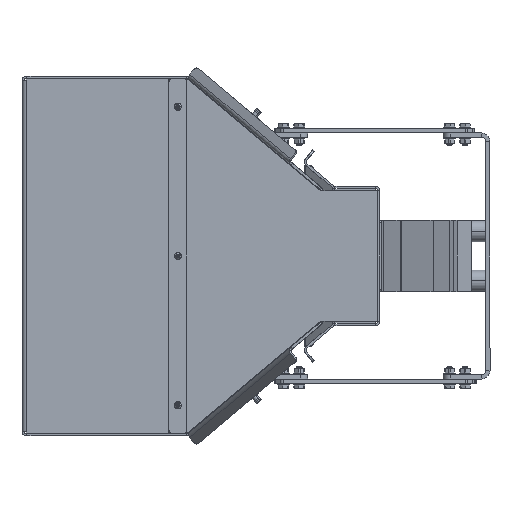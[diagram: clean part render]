
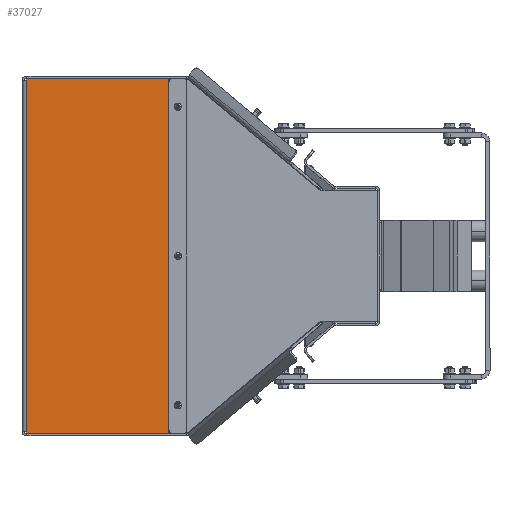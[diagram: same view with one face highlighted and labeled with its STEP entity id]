
A CAD part, left-side view. The second image highlights one B-rep face of the part: STEP entity #37027.
In plain terms, the highlighted planar face has unit normal (-1, 0, 0) as drawn and (0.738, 0, 0.674) by its records, which use the part's own axes.
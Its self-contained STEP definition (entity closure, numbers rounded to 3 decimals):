
#41 = VERTEX_POINT ( 'NONE', #40507 ) ;
#699 = VERTEX_POINT ( 'NONE', #54958 ) ;
#1109 = DIRECTION ( 'NONE',  ( -0.674, 0., 0.738 ) ) ;
#1150 = DIRECTION ( 'NONE',  ( 0., 1., 0. ) ) ;
#1643 = VECTOR ( 'NONE', #47442, 1000. ) ;
#1984 = CARTESIAN_POINT ( 'NONE',  ( 418.077, 210., -11.185 ) ) ;
#3051 = VERTEX_POINT ( 'NONE', #55359 ) ;
#4116 = CIRCLE ( 'NONE', #43533, 2.75 ) ;
#4188 = ORIENTED_EDGE ( 'NONE', *, *, #21803, .F. ) ;
#5132 = DIRECTION ( 'NONE',  ( 0., 1., 0. ) ) ;
#6553 = CARTESIAN_POINT ( 'NONE',  ( 418.077, 0., -11.185 ) ) ;
#6879 = CARTESIAN_POINT ( 'NONE',  ( 561.149, -250., -167.868 ) ) ;
#6912 = LINE ( 'NONE', #50343, #40850 ) ;
#7753 = ORIENTED_EDGE ( 'NONE', *, *, #16465, .T. ) ;
#8457 = VERTEX_POINT ( 'NONE', #12763 ) ;
#8680 = LINE ( 'NONE', #10211, #47057 ) ;
#9633 = DIRECTION ( 'NONE',  ( 0., 1., 0. ) ) ;
#9654 = VECTOR ( 'NONE', #50439, 1000. ) ;
#9684 = DIRECTION ( 'NONE',  ( -0.674, 0., 0.738 ) ) ;
#10211 = CARTESIAN_POINT ( 'NONE',  ( 409.649, 250., -1.954 ) ) ;
#11893 = EDGE_CURVE ( 'NONE', #8457, #52226, #29625, .T. ) ;
#12161 = ORIENTED_EDGE ( 'NONE', *, *, #59575, .T. ) ;
#12323 = CARTESIAN_POINT ( 'NONE',  ( 418.077, -210., -11.185 ) ) ;
#12380 = DIRECTION ( 'NONE',  ( 0.738, 0., 0.674 ) ) ;
#12456 = CARTESIAN_POINT ( 'NONE',  ( 561.149, 249., -167.868 ) ) ;
#12691 = VECTOR ( 'NONE', #54669, 1000. ) ;
#12702 = EDGE_CURVE ( 'NONE', #3051, #41, #37607, .T. ) ;
#12763 = CARTESIAN_POINT ( 'NONE',  ( 409.649, -250., -1.954 ) ) ;
#12791 = EDGE_CURVE ( 'NONE', #53352, #15149, #56026, .T. ) ;
#13277 = VERTEX_POINT ( 'NONE', #46219 ) ;
#15149 = VERTEX_POINT ( 'NONE', #16061 ) ;
#15299 = DIRECTION ( 'NONE',  ( -0.738, 0., -0.674 ) ) ;
#16061 = CARTESIAN_POINT ( 'NONE',  ( 419.932, -210., -13.216 ) ) ;
#16465 = EDGE_CURVE ( 'NONE', #17456, #21212, #6912, .T. ) ;
#17076 = DIRECTION ( 'NONE',  ( 0.674, 0., -0.738 ) ) ;
#17194 = ORIENTED_EDGE ( 'NONE', *, *, #54902, .T. ) ;
#17456 = VERTEX_POINT ( 'NONE', #20924 ) ;
#17762 = ORIENTED_EDGE ( 'NONE', *, *, #40333, .F. ) ;
#18934 = DIRECTION ( 'NONE',  ( 0.738, 0., 0.674 ) ) ;
#19605 = AXIS2_PLACEMENT_3D ( 'NONE', #12323, #40728, #49276 ) ;
#20061 = LINE ( 'NONE', #21269, #12691 ) ;
#20064 = LINE ( 'NONE', #47613, #43718 ) ;
#20924 = CARTESIAN_POINT ( 'NONE',  ( 561.823, -247., -168.606 ) ) ;
#21159 = CIRCLE ( 'NONE', #27971, 2.75 ) ;
#21212 = VERTEX_POINT ( 'NONE', #35328 ) ;
#21269 = CARTESIAN_POINT ( 'NONE',  ( 561.823, 250., -168.606 ) ) ;
#21803 = EDGE_CURVE ( 'NONE', #699, #55076, #21159, .T. ) ;
#22322 = CARTESIAN_POINT ( 'NONE',  ( 223.926, -250., 201.438 ) ) ;
#23702 = CARTESIAN_POINT ( 'NONE',  ( 409.649, 250., -1.954 ) ) ;
#25701 = AXIS2_PLACEMENT_3D ( 'NONE', #29559, #15299, #1109 ) ;
#26436 = EDGE_LOOP ( 'NONE', ( #27054, #28919 ) ) ;
#26909 = EDGE_LOOP ( 'NONE', ( #51682, #37856 ) ) ;
#27054 = ORIENTED_EDGE ( 'NONE', *, *, #60587, .F. ) ;
#27580 = ORIENTED_EDGE ( 'NONE', *, *, #30129, .T. ) ;
#27770 = ORIENTED_EDGE ( 'NONE', *, *, #43509, .F. ) ;
#27971 = AXIS2_PLACEMENT_3D ( 'NONE', #1984, #44251, #40912 ) ;
#28919 = ORIENTED_EDGE ( 'NONE', *, *, #12791, .F. ) ;
#29042 = VERTEX_POINT ( 'NONE', #60381 ) ;
#29317 = DIRECTION ( 'NONE',  ( 0.738, 0., 0.674 ) ) ;
#29368 = PLANE ( 'NONE',  #25701 ) ;
#29559 = CARTESIAN_POINT ( 'NONE',  ( 223.926, 0., 201.438 ) ) ;
#29625 = LINE ( 'NONE', #22322, #9654 ) ;
#30129 = EDGE_CURVE ( 'NONE', #13277, #45293, #32645, .T. ) ;
#30852 = DIRECTION ( 'NONE',  ( -0.674, 0., 0.738 ) ) ;
#31416 = EDGE_LOOP ( 'NONE', ( #17762, #40831, #44818, #12161, #7753, #27770, #17194, #27580 ) ) ;
#32645 = LINE ( 'NONE', #51546, #1643 ) ;
#33530 = ORIENTED_EDGE ( 'NONE', *, *, #48969, .F. ) ;
#33761 = CIRCLE ( 'NONE', #50224, 1. ) ;
#34251 = VERTEX_POINT ( 'NONE', #48920 ) ;
#35328 = CARTESIAN_POINT ( 'NONE',  ( 561.823, 247., -168.606 ) ) ;
#35649 = CIRCLE ( 'NONE', #50596, 1. ) ;
#36015 = EDGE_CURVE ( 'NONE', #52226, #34251, #35649, .T. ) ;
#36317 = FACE_BOUND ( 'NONE', #49604, .T. ) ;
#37027 = ADVANCED_FACE ( 'NONE', ( #41432, #46626, #36317, #56151 ), #29368, .F. ) ;
#37607 = CIRCLE ( 'NONE', #56758, 2.75 ) ;
#37856 = ORIENTED_EDGE ( 'NONE', *, *, #39978, .F. ) ;
#37940 = CARTESIAN_POINT ( 'NONE',  ( 561.149, -249., -167.868 ) ) ;
#39394 = DIRECTION ( 'NONE',  ( 0.674, 0., -0.738 ) ) ;
#39978 = EDGE_CURVE ( 'NONE', #41, #3051, #43302, .T. ) ;
#40106 = CARTESIAN_POINT ( 'NONE',  ( 419.932, 210., -13.216 ) ) ;
#40333 = EDGE_CURVE ( 'NONE', #8457, #45293, #8680, .T. ) ;
#40507 = CARTESIAN_POINT ( 'NONE',  ( 416.223, 0., -9.154 ) ) ;
#40589 = CARTESIAN_POINT ( 'NONE',  ( 418.077, 210., -11.185 ) ) ;
#40728 = DIRECTION ( 'NONE',  ( 0.738, 0., 0.674 ) ) ;
#40831 = ORIENTED_EDGE ( 'NONE', *, *, #11893, .T. ) ;
#40850 = VECTOR ( 'NONE', #5132, 1000. ) ;
#40912 = DIRECTION ( 'NONE',  ( 0.674, 0., -0.738 ) ) ;
#41432 = FACE_BOUND ( 'NONE', #26436, .T. ) ;
#43302 = CIRCLE ( 'NONE', #45646, 2.75 ) ;
#43509 = EDGE_CURVE ( 'NONE', #29042, #21212, #20061, .T. ) ;
#43533 = AXIS2_PLACEMENT_3D ( 'NONE', #40589, #12380, #17076 ) ;
#43662 = CIRCLE ( 'NONE', #56324, 2.75 ) ;
#43718 = VECTOR ( 'NONE', #9633, 1000. ) ;
#44117 = DIRECTION ( 'NONE',  ( 0.674, 0., -0.738 ) ) ;
#44251 = DIRECTION ( 'NONE',  ( 0.738, 0., 0.674 ) ) ;
#44288 = DIRECTION ( 'NONE',  ( 0.738, 0., 0.674 ) ) ;
#44299 = CARTESIAN_POINT ( 'NONE',  ( 418.077, 0., -11.185 ) ) ;
#44818 = ORIENTED_EDGE ( 'NONE', *, *, #36015, .T. ) ;
#45293 = VERTEX_POINT ( 'NONE', #23702 ) ;
#45507 = DIRECTION ( 'NONE',  ( 0.738, 0., 0.674 ) ) ;
#45646 = AXIS2_PLACEMENT_3D ( 'NONE', #6553, #44288, #49067 ) ;
#46219 = CARTESIAN_POINT ( 'NONE',  ( 561.149, 250., -167.868 ) ) ;
#46626 = FACE_BOUND ( 'NONE', #26909, .T. ) ;
#47057 = VECTOR ( 'NONE', #1150, 1000. ) ;
#47442 = DIRECTION ( 'NONE',  ( -0.674, 0., 0.738 ) ) ;
#47613 = CARTESIAN_POINT ( 'NONE',  ( 561.823, -250., -168.606 ) ) ;
#48685 = DIRECTION ( 'NONE',  ( 0.738, 0., 0.674 ) ) ;
#48920 = CARTESIAN_POINT ( 'NONE',  ( 561.823, -249., -168.606 ) ) ;
#48969 = EDGE_CURVE ( 'NONE', #55076, #699, #4116, .T. ) ;
#49067 = DIRECTION ( 'NONE',  ( 0.674, 0., -0.738 ) ) ;
#49276 = DIRECTION ( 'NONE',  ( 0.674, 0., -0.738 ) ) ;
#49604 = EDGE_LOOP ( 'NONE', ( #33530, #4188 ) ) ;
#50224 = AXIS2_PLACEMENT_3D ( 'NONE', #12456, #45507, #30852 ) ;
#50343 = CARTESIAN_POINT ( 'NONE',  ( 561.823, -250., -168.606 ) ) ;
#50439 = DIRECTION ( 'NONE',  ( 0.674, 0., -0.738 ) ) ;
#50596 = AXIS2_PLACEMENT_3D ( 'NONE', #37940, #18934, #9684 ) ;
#51546 = CARTESIAN_POINT ( 'NONE',  ( 223.926, 250., 201.438 ) ) ;
#51682 = ORIENTED_EDGE ( 'NONE', *, *, #12702, .F. ) ;
#52226 = VERTEX_POINT ( 'NONE', #6879 ) ;
#53352 = VERTEX_POINT ( 'NONE', #57723 ) ;
#53393 = CARTESIAN_POINT ( 'NONE',  ( 418.077, -210., -11.185 ) ) ;
#54669 = DIRECTION ( 'NONE',  ( 0., -1., 0. ) ) ;
#54902 = EDGE_CURVE ( 'NONE', #29042, #13277, #33761, .T. ) ;
#54958 = CARTESIAN_POINT ( 'NONE',  ( 416.223, 210., -9.154 ) ) ;
#55076 = VERTEX_POINT ( 'NONE', #40106 ) ;
#55359 = CARTESIAN_POINT ( 'NONE',  ( 419.932, 0., -13.216 ) ) ;
#56026 = CIRCLE ( 'NONE', #19605, 2.75 ) ;
#56151 = FACE_OUTER_BOUND ( 'NONE', #31416, .T. ) ;
#56324 = AXIS2_PLACEMENT_3D ( 'NONE', #53393, #29317, #39394 ) ;
#56758 = AXIS2_PLACEMENT_3D ( 'NONE', #44299, #48685, #44117 ) ;
#57723 = CARTESIAN_POINT ( 'NONE',  ( 416.223, -210., -9.154 ) ) ;
#59575 = EDGE_CURVE ( 'NONE', #34251, #17456, #20064, .T. ) ;
#60381 = CARTESIAN_POINT ( 'NONE',  ( 561.823, 249., -168.606 ) ) ;
#60587 = EDGE_CURVE ( 'NONE', #15149, #53352, #43662, .T. ) ;
